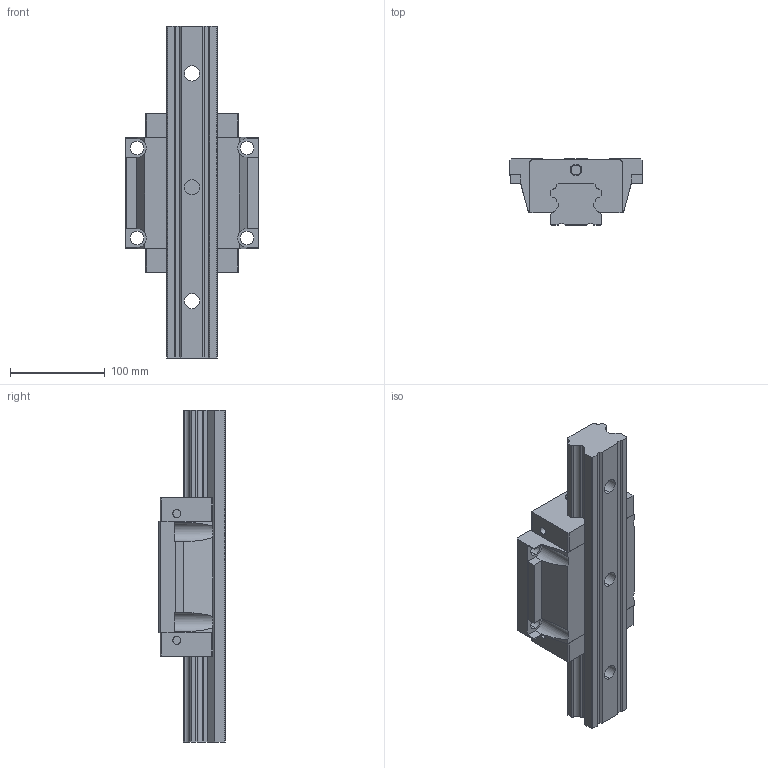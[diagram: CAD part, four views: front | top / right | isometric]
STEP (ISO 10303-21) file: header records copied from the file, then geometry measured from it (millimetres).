
FILE_DESCRIPTION((''),'2;1');
FILE_NAME('HGW55CC_ASM','2008-07-11T',('minyao'),(''),'PRO/ENGINEER BY PARAMETRIC TECHNOLOGY CORPORATION, 2004360','PRO/ENGINEER BY PARAMETRIC TECHNOLOGY CORPORATION, 2004360','');
FILE_SCHEMA(('CONFIG_CONTROL_DESIGN'));
Length unit declared in the file: millimetre
Products named in the file (7): HG_BLOCK_HGWCC_ANY; HG_BLOCK_SS_ANY_ASM_ASM; HG_RAIL0_R_ANY; HGW55C_ANY_ASM_ASM; HGW55C_ASM_ASM; HG55_EC; HGW55CC_ASM
Assembly tree (7 placements, depth 5):
  HGW55CC_ASM
    HGW55C_ASM_ASM
      HGW55C_ANY_ASM_ASM
        HG_BLOCK_SS_ANY_ASM_ASM
          HG_BLOCK_HGWCC_ANY
        HG_RAIL0_R_ANY
    HG55_EC  x2
Bounding box: 140 x 70 x 350 mm (x, y, z)
Volume: 1486895.4 mm3; surface area: 186714.8 mm2
Topology: 4 solids, 4 shells, 209 faces, 592 edges, 400 vertices
Faces by surface type: plane 149, cylinder 60
Entity records: 5704 total; most frequent: CARTESIAN_POINT 1019, ORIENTED_EDGE 952, DIRECTION 932, EDGE_CURVE 476, VECTOR 376, LINE 376, VERTEX_POINT 320, AXIS2_PLACEMENT_3D 278
